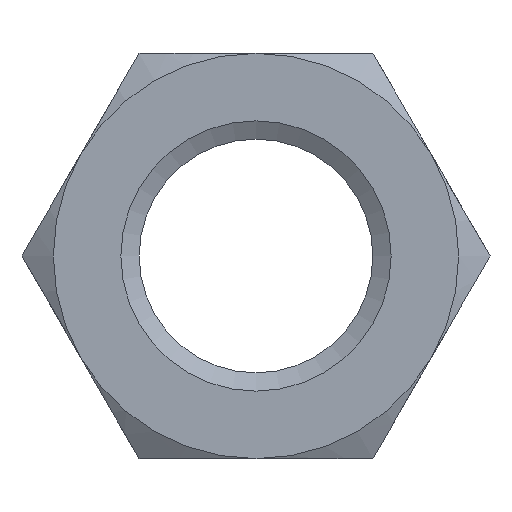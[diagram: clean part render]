
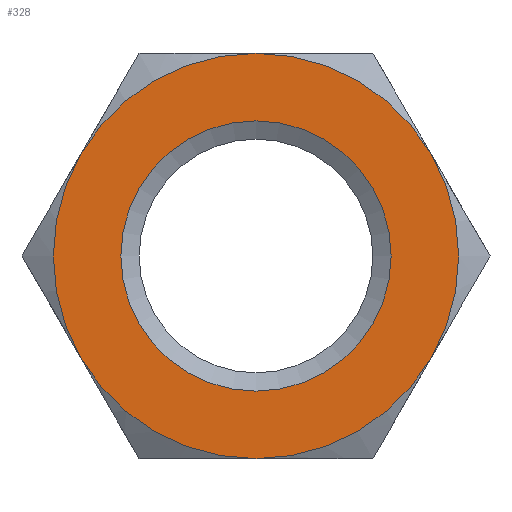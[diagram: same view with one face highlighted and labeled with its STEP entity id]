
A CAD part, left-side view. The second image highlights one B-rep face of the part: STEP entity #328.
In plain terms, the highlighted planar face has unit normal (-1, 0, 0).
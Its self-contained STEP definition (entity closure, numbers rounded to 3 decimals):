
#39=FACE_BOUND('',#76,.T.);
#41=PLANE('',#378);
#52=FACE_OUTER_BOUND('',#75,.T.);
#75=EDGE_LOOP('',(#221,#222,#223,#224,#225,#226));
#76=EDGE_LOOP('',(#227));
#116=CIRCLE('',#373,8.);
#120=CIRCLE('',#379,12.);
#121=CIRCLE('',#380,12.);
#122=CIRCLE('',#381,12.);
#123=CIRCLE('',#382,12.);
#124=CIRCLE('',#383,12.);
#125=CIRCLE('',#384,12.);
#133=VERTEX_POINT('',#505);
#137=VERTEX_POINT('',#517);
#138=VERTEX_POINT('',#518);
#139=VERTEX_POINT('',#520);
#140=VERTEX_POINT('',#522);
#141=VERTEX_POINT('',#524);
#142=VERTEX_POINT('',#526);
#162=EDGE_CURVE('',#133,#133,#116,.T.);
#168=EDGE_CURVE('',#137,#138,#120,.T.);
#169=EDGE_CURVE('',#138,#139,#121,.T.);
#170=EDGE_CURVE('',#139,#140,#122,.T.);
#171=EDGE_CURVE('',#140,#141,#123,.T.);
#172=EDGE_CURVE('',#141,#142,#124,.T.);
#173=EDGE_CURVE('',#142,#137,#125,.T.);
#221=ORIENTED_EDGE('',*,*,#168,.T.);
#222=ORIENTED_EDGE('',*,*,#169,.T.);
#223=ORIENTED_EDGE('',*,*,#170,.T.);
#224=ORIENTED_EDGE('',*,*,#171,.T.);
#225=ORIENTED_EDGE('',*,*,#172,.T.);
#226=ORIENTED_EDGE('',*,*,#173,.T.);
#227=ORIENTED_EDGE('',*,*,#162,.F.);
#328=ADVANCED_FACE('',(#52,#39),#41,.F.);
#373=AXIS2_PLACEMENT_3D('',#506,#416,#417);
#378=AXIS2_PLACEMENT_3D('',#516,#428,#429);
#379=AXIS2_PLACEMENT_3D('',#519,#430,#431);
#380=AXIS2_PLACEMENT_3D('',#521,#432,#433);
#381=AXIS2_PLACEMENT_3D('',#523,#434,#435);
#382=AXIS2_PLACEMENT_3D('',#525,#436,#437);
#383=AXIS2_PLACEMENT_3D('',#527,#438,#439);
#384=AXIS2_PLACEMENT_3D('',#528,#440,#441);
#416=DIRECTION('center_axis',(-1.,0.,0.));
#417=DIRECTION('ref_axis',(0.,0.,-1.));
#428=DIRECTION('center_axis',(1.,0.,0.));
#429=DIRECTION('ref_axis',(0.,0.,-1.));
#430=DIRECTION('center_axis',(-1.,0.,0.));
#431=DIRECTION('ref_axis',(0.,1.,0.));
#432=DIRECTION('center_axis',(-1.,0.,0.));
#433=DIRECTION('ref_axis',(0.,1.,0.));
#434=DIRECTION('center_axis',(-1.,0.,0.));
#435=DIRECTION('ref_axis',(0.,1.,0.));
#436=DIRECTION('center_axis',(-1.,0.,0.));
#437=DIRECTION('ref_axis',(0.,1.,0.));
#438=DIRECTION('center_axis',(-1.,0.,0.));
#439=DIRECTION('ref_axis',(0.,1.,0.));
#440=DIRECTION('center_axis',(-1.,0.,0.));
#441=DIRECTION('ref_axis',(0.,1.,0.));
#505=CARTESIAN_POINT('',(0.,0.,8.));
#506=CARTESIAN_POINT('Origin',(0.,0.,0.));
#516=CARTESIAN_POINT('Origin',(0.,0.,0.));
#517=CARTESIAN_POINT('',(0.,-10.392,-6.));
#518=CARTESIAN_POINT('',(0.,-10.392,6.));
#519=CARTESIAN_POINT('Origin',(0.,0.,0.));
#520=CARTESIAN_POINT('',(0.,0.,12.));
#521=CARTESIAN_POINT('Origin',(0.,0.,0.));
#522=CARTESIAN_POINT('',(0.,10.392,6.));
#523=CARTESIAN_POINT('Origin',(0.,0.,0.));
#524=CARTESIAN_POINT('',(0.,10.392,-6.));
#525=CARTESIAN_POINT('Origin',(0.,0.,0.));
#526=CARTESIAN_POINT('',(0.,0.,-12.));
#527=CARTESIAN_POINT('Origin',(0.,0.,0.));
#528=CARTESIAN_POINT('Origin',(0.,0.,0.));
